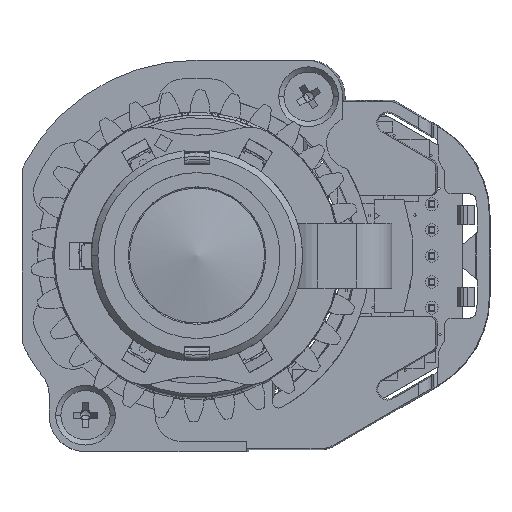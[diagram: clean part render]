
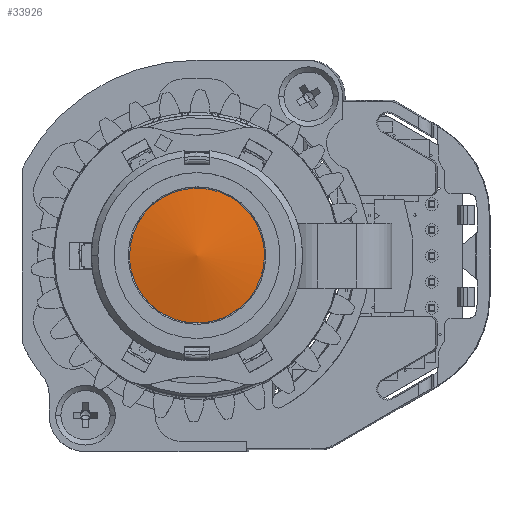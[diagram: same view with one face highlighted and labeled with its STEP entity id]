
A CAD part, top view. The second image highlights one B-rep face of the part: STEP entity #33926.
In plain terms, the highlighted free-form (B-spline) face has degree [2, 2] with [5, 5] control points.
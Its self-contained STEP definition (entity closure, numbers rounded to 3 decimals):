
#529 = CARTESIAN_POINT ( 'NONE',  ( -16.088, 0., -25.916 ) ) ;
#1162 = CARTESIAN_POINT ( 'NONE',  ( -16.088, -16.088, -42.004 ) ) ;
#3090 = CARTESIAN_POINT ( 'NONE',  ( 16.088, 0., -25.916 ) ) ;
#10988 = CARTESIAN_POINT ( 'NONE',  ( 16.088, 0., -42.004 ) ) ;
#11536 = VERTEX_POINT ( 'NONE', #34216 ) ;
#14442 = CARTESIAN_POINT ( 'NONE',  ( 5.2, 5.2, -41.141 ) ) ;
#14854 = CARTESIAN_POINT ( 'NONE',  ( 16.088, -16.088, -25.916 ) ) ;
#18890 = CARTESIAN_POINT ( 'NONE',  ( -16.088, 16.088, -25.916 ) ) ;
#20828 = CARTESIAN_POINT ( 'NONE',  ( -16.088, 0., -42.004 ) ) ;
#23382 = CARTESIAN_POINT ( 'NONE',  ( 0., -16.088, -25.916 ) ) ;
#25251 = CARTESIAN_POINT ( 'NONE',  ( -5.2, 0., -41.141 ) ) ;
#31277 = CARTESIAN_POINT ( 'NONE',  ( 16.088, 0., -25.916 ) ) ;
#32131 = CARTESIAN_POINT ( 'NONE',  ( 5.2, 0., -41.141 ) ) ;
#33060 = ORIENTED_EDGE ( 'NONE', *, *, #60333, .F. ) ;
#33926 = ADVANCED_FACE ( 'NONE', ( #90713 ), #43207, .F. ) ;
#34216 = CARTESIAN_POINT ( 'NONE',  ( 5.2, 0., -41.141 ) ) ;
#38880 = CARTESIAN_POINT ( 'NONE',  ( 5.2, 0., -41.141 ) ) ;
#39521 = CARTESIAN_POINT ( 'NONE',  ( 5.2, -5.2, -41.141 ) ) ;
#40393 = CARTESIAN_POINT ( 'NONE',  ( 16.088, 16.088, -42.004 ) ) ;
#43207 =( BOUNDED_SURFACE ( )  B_SPLINE_SURFACE ( 2, 2, ( 
 ( #121290, #18890, #119375, #99210, #90083 ),
 ( #529, #89448, #129195, #40393, #80276 ),
 ( #70466, #20828, #100499, #10988, #31277 ),
 ( #50865, #1162, #80911, #120652, #71117 ),
 ( #83480, #73037, #23382, #14854, #3090 ) ),
 .UNSPECIFIED., .F., .F., .F. ) 
 B_SPLINE_SURFACE_WITH_KNOTS ( ( 3, 2, 3 ),
 ( 3, 2, 3 ),
 ( 0., 0.5, 1. ),
 ( 0., 0.5, 1. ),
 .UNSPECIFIED. ) 
 GEOMETRIC_REPRESENTATION_ITEM ( )  RATIONAL_B_SPLINE_SURFACE ( (
 ( 1., 0.707, 1., 0.707, 1.),
 ( 0.707, 0.5, 0.707, 0.5, 0.707),
 ( 1., 0.707, 1., 0.707, 1.),
 ( 0.707, 0.5, 0.707, 0.5, 0.707),
 ( 1., 0.707, 1., 0.707, 1.) ) ) 
 REPRESENTATION_ITEM ( '' )  SURFACE ( )  );
#50846 =( BOUNDED_CURVE ( )  B_SPLINE_CURVE ( 2, ( #32131, #14442, #62159, #103895, #53007 ),
 .UNSPECIFIED., .F., .F. ) 
 B_SPLINE_CURVE_WITH_KNOTS ( ( 3, 2, 3 ),
 ( 0., 1.571, 3.142 ),
 .UNSPECIFIED. ) 
 CURVE ( )  GEOMETRIC_REPRESENTATION_ITEM ( )  RATIONAL_B_SPLINE_CURVE ( ( 1., 0.707, 1., 0.707, 1. ) ) 
 REPRESENTATION_ITEM ( '' )  );
#50865 = CARTESIAN_POINT ( 'NONE',  ( -16.088, 0., -25.916 ) ) ;
#53007 = CARTESIAN_POINT ( 'NONE',  ( -5.2, 0., -41.141 ) ) ;
#57937 = ORIENTED_EDGE ( 'NONE', *, *, #68282, .F. ) ;
#60333 = EDGE_CURVE ( 'NONE', #97420, #11536, #84038, .T. ) ;
#62159 = CARTESIAN_POINT ( 'NONE',  ( 0., 5.2, -41.141 ) ) ;
#65059 = CARTESIAN_POINT ( 'NONE',  ( -5.2, -5.2, -41.141 ) ) ;
#68282 = EDGE_CURVE ( 'NONE', #11536, #97420, #50846, .T. ) ;
#70466 = CARTESIAN_POINT ( 'NONE',  ( -16.088, 0., -25.916 ) ) ;
#71117 = CARTESIAN_POINT ( 'NONE',  ( 16.088, 0., -25.916 ) ) ;
#72202 = EDGE_LOOP ( 'NONE', ( #57937, #33060 ) ) ;
#73037 = CARTESIAN_POINT ( 'NONE',  ( -16.088, -16.088, -25.916 ) ) ;
#80276 = CARTESIAN_POINT ( 'NONE',  ( 16.088, 0., -25.916 ) ) ;
#80911 = CARTESIAN_POINT ( 'NONE',  ( 0., -16.088, -42.004 ) ) ;
#83480 = CARTESIAN_POINT ( 'NONE',  ( -16.088, 0., -25.916 ) ) ;
#84038 =( BOUNDED_CURVE ( )  B_SPLINE_CURVE ( 2, ( #25251, #65059, #128280, #39521, #38880 ),
 .UNSPECIFIED., .F., .F. ) 
 B_SPLINE_CURVE_WITH_KNOTS ( ( 3, 2, 3 ),
 ( 3.142, 4.712, 6.283 ),
 .UNSPECIFIED. ) 
 CURVE ( )  GEOMETRIC_REPRESENTATION_ITEM ( )  RATIONAL_B_SPLINE_CURVE ( ( 1., 0.707, 1., 0.707, 1. ) ) 
 REPRESENTATION_ITEM ( '' )  );
#89448 = CARTESIAN_POINT ( 'NONE',  ( -16.088, 16.088, -42.004 ) ) ;
#90083 = CARTESIAN_POINT ( 'NONE',  ( 16.088, 0., -25.916 ) ) ;
#90713 = FACE_OUTER_BOUND ( 'NONE', #72202, .T. ) ;
#94601 = CARTESIAN_POINT ( 'NONE',  ( -5.2, 0., -41.141 ) ) ;
#97420 = VERTEX_POINT ( 'NONE', #94601 ) ;
#99210 = CARTESIAN_POINT ( 'NONE',  ( 16.088, 16.088, -25.916 ) ) ;
#100499 = CARTESIAN_POINT ( 'NONE',  ( 0., 0., -42.004 ) ) ;
#103895 = CARTESIAN_POINT ( 'NONE',  ( -5.2, 5.2, -41.141 ) ) ;
#119375 = CARTESIAN_POINT ( 'NONE',  ( 0., 16.088, -25.916 ) ) ;
#120652 = CARTESIAN_POINT ( 'NONE',  ( 16.088, -16.088, -42.004 ) ) ;
#121290 = CARTESIAN_POINT ( 'NONE',  ( -16.088, 0., -25.916 ) ) ;
#128280 = CARTESIAN_POINT ( 'NONE',  ( 0., -5.2, -41.141 ) ) ;
#129195 = CARTESIAN_POINT ( 'NONE',  ( 0., 16.088, -42.004 ) ) ;
